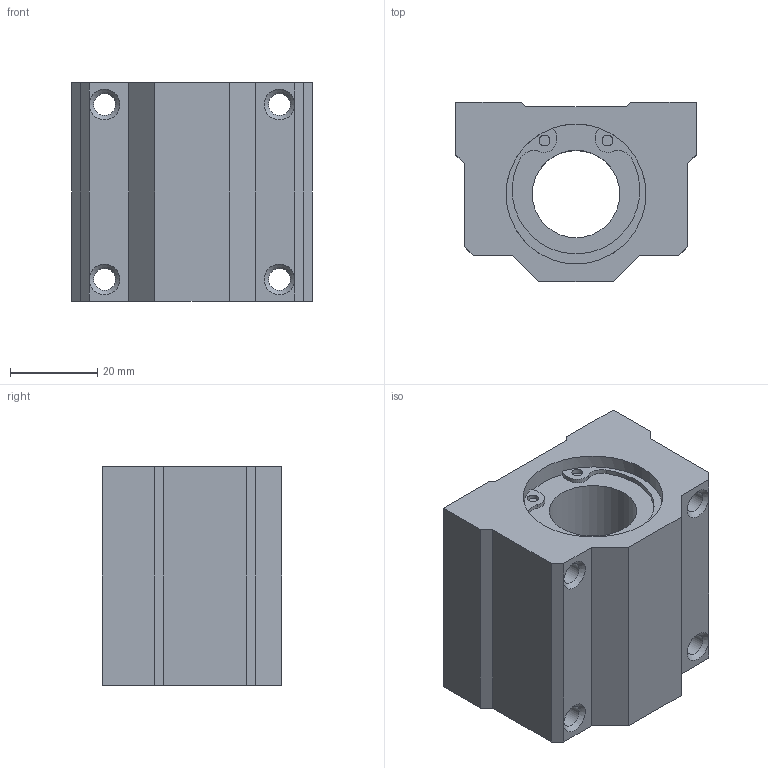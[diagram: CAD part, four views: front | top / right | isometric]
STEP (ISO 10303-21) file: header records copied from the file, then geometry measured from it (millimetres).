
FILE_DESCRIPTION(('STEP AP214'), '1');
FILE_NAME('SC20UU - Îïîðíûé ìîäóëü', '', ('UNSPECIFIED'), ('UNSPECIFIED'), 'ASCON STEP Converter 1.3', 'ASCON Math Kernel', '');
FILE_SCHEMA(('AUTOMOTIVE_DESIGN { 1 0 10303 214 3 1 1}'));
Length unit declared in the file: millimetre
Products named in the file (1): SC20UU
Bounding box: 55 x 41 x 50 mm (x, y, z)
Volume: 75222.2 mm3; surface area: 17772.1 mm2
Topology: 1 solids, 1 shells, 65 faces, 169 edges, 108 vertices
Faces by surface type: plane 32, cylinder 25, cone 8
Full cylindrical faces by diameter (mm): 2.5 x4, 5 x4, 20 x1, 32 x2
Entity records: 2484 total; most frequent: DIRECTION 346, CARTESIAN_POINT 324, ORIENTED_EDGE 300, EDGE_CURVE 150, AXIS2_PLACEMENT_3D 130, VERTEX_POINT 108, EDGE_LOOP 96, LINE 86
